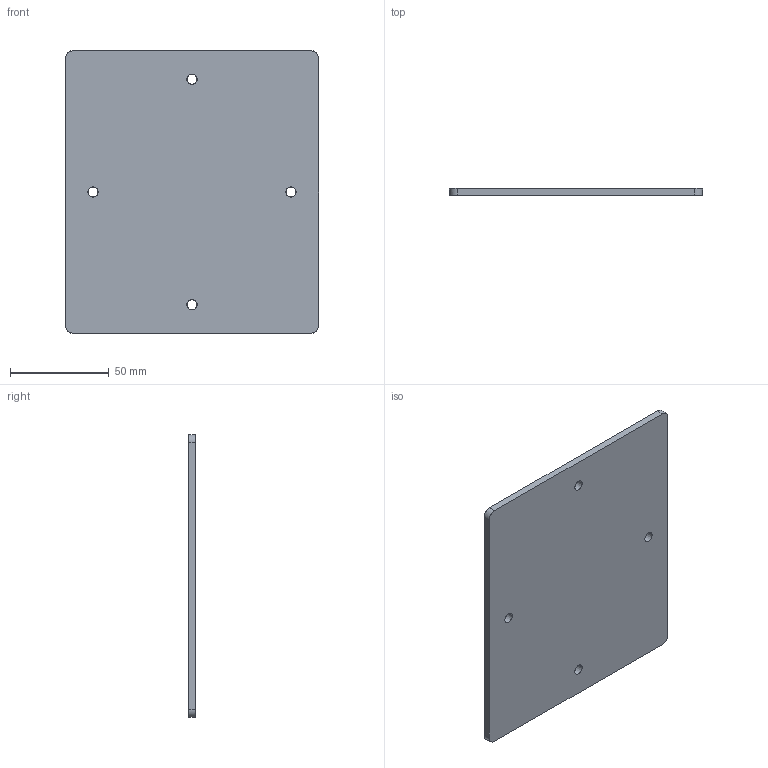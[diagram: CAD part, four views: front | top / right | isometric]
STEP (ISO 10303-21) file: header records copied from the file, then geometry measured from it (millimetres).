
FILE_DESCRIPTION((''),'2;1');
FILE_NAME('BOX200X140X90-PLACA','2022-09-13T10:42:51',('pc'),(''),'CREO PARAMETRIC BY PTC INC, 2018100','CREO PARAMETRIC BY PTC INC, 2018100','');
FILE_SCHEMA(('CONFIG_CONTROL_DESIGN'));
Length unit declared in the file: millimetre
Products named in the file (1): BOX200X140X90-PLACA
Bounding box: 128 x 3.5 x 143 mm (x, y, z)
Volume: 63611.6 mm3; surface area: 38447.4 mm2
Topology: 1 solids, 1 shells, 18 faces, 48 edges, 32 vertices
Faces by surface type: cone 8, plane 6, cylinder 4
Entity records: 642 total; most frequent: CARTESIAN_POINT 134, ORIENTED_EDGE 96, DIRECTION 92, EDGE_CURVE 48, AXIS2_PLACEMENT_3D 34, VERTEX_POINT 32, EDGE_LOOP 26, VECTOR 24
